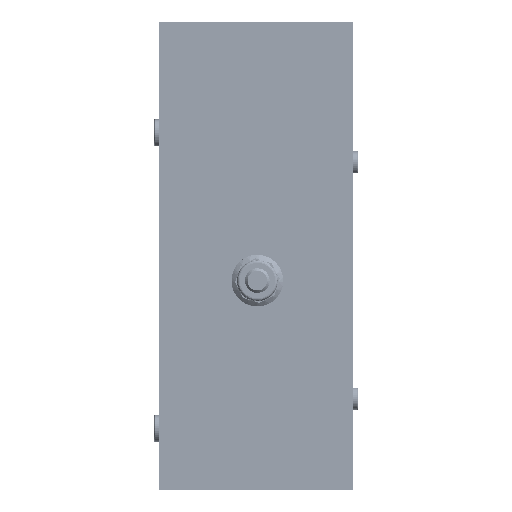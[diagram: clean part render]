
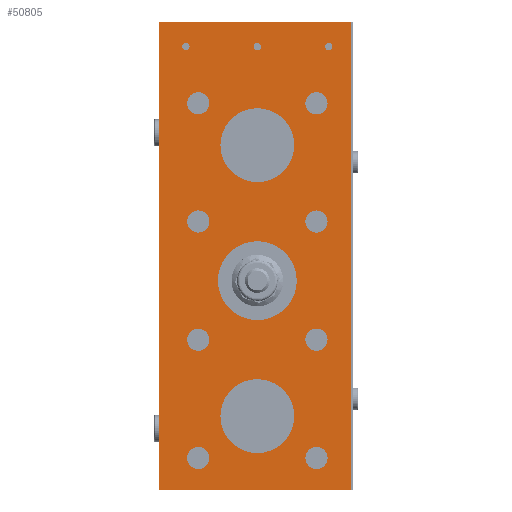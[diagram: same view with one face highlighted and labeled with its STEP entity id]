
A CAD part, left-side view. The second image highlights one B-rep face of the part: STEP entity #50805.
In plain terms, the highlighted planar face has unit normal (-1, 0, 0).
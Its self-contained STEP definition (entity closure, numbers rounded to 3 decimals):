
#48917=CARTESIAN_POINT('',(-144.0,28.5,-82.));
#48918=VERTEX_POINT('',#48917);
#48919=CARTESIAN_POINT('',(-144.0,24.,-82.));
#48920=DIRECTION('',(1.0,0.0,0.0));
#48921=DIRECTION('',(0.0,1.0,0.0));
#48922=AXIS2_PLACEMENT_3D('',#48919,#48920,#48921);
#48923=CIRCLE('',#48922,4.5);
#48924=EDGE_CURVE('',#48918,#48918,#48923,.T.);
#48986=CARTESIAN_POINT('',(-144.0,-19.5,-34.));
#48987=VERTEX_POINT('',#48986);
#48988=CARTESIAN_POINT('',(-144.0,-24.,-34.));
#48989=DIRECTION('',(1.0,0.0,0.0));
#48990=DIRECTION('',(0.0,1.0,0.0));
#48991=AXIS2_PLACEMENT_3D('',#48988,#48989,#48990);
#48992=CIRCLE('',#48991,4.5);
#48993=EDGE_CURVE('',#48987,#48987,#48992,.T.);
#49055=CARTESIAN_POINT('',(-144.0,28.5,14.));
#49056=VERTEX_POINT('',#49055);
#49057=CARTESIAN_POINT('',(-144.0,24.,14.));
#49058=DIRECTION('',(1.0,0.0,0.0));
#49059=DIRECTION('',(0.0,1.0,0.0));
#49060=AXIS2_PLACEMENT_3D('',#49057,#49058,#49059);
#49061=CIRCLE('',#49060,4.5);
#49062=EDGE_CURVE('',#49056,#49056,#49061,.T.);
#49124=CARTESIAN_POINT('',(-144.0,-19.5,62.));
#49125=VERTEX_POINT('',#49124);
#49126=CARTESIAN_POINT('',(-144.0,-24.,62.));
#49127=DIRECTION('',(1.0,0.0,0.0));
#49128=DIRECTION('',(0.0,1.0,0.0));
#49129=AXIS2_PLACEMENT_3D('',#49126,#49127,#49128);
#49130=CIRCLE('',#49129,4.5);
#49131=EDGE_CURVE('',#49125,#49125,#49130,.T.);
#49193=CARTESIAN_POINT('',(-144.0,28.5,62.));
#49194=VERTEX_POINT('',#49193);
#49195=CARTESIAN_POINT('',(-144.0,24.,62.));
#49196=DIRECTION('',(1.0,0.0,0.0));
#49197=DIRECTION('',(0.0,1.0,0.0));
#49198=AXIS2_PLACEMENT_3D('',#49195,#49196,#49197);
#49199=CIRCLE('',#49198,4.5);
#49200=EDGE_CURVE('',#49194,#49194,#49199,.T.);
#49262=CARTESIAN_POINT('',(-144.0,-19.5,14.));
#49263=VERTEX_POINT('',#49262);
#49264=CARTESIAN_POINT('',(-144.0,-24.,14.));
#49265=DIRECTION('',(1.0,0.0,0.0));
#49266=DIRECTION('',(0.0,1.0,0.0));
#49267=AXIS2_PLACEMENT_3D('',#49264,#49265,#49266);
#49268=CIRCLE('',#49267,4.5);
#49269=EDGE_CURVE('',#49263,#49263,#49268,.T.);
#49331=CARTESIAN_POINT('',(-144.0,-19.5,-82.));
#49332=VERTEX_POINT('',#49331);
#49333=CARTESIAN_POINT('',(-144.0,-24.,-82.));
#49334=DIRECTION('',(1.0,0.0,0.0));
#49335=DIRECTION('',(0.0,1.0,0.0));
#49336=AXIS2_PLACEMENT_3D('',#49333,#49334,#49335);
#49337=CIRCLE('',#49336,4.5);
#49338=EDGE_CURVE('',#49332,#49332,#49337,.T.);
#49400=CARTESIAN_POINT('',(-144.0,28.5,-34.));
#49401=VERTEX_POINT('',#49400);
#49402=CARTESIAN_POINT('',(-144.0,24.,-34.));
#49403=DIRECTION('',(1.0,0.0,0.0));
#49404=DIRECTION('',(0.0,1.0,0.0));
#49405=AXIS2_PLACEMENT_3D('',#49402,#49403,#49404);
#49406=CIRCLE('',#49405,4.5);
#49407=EDGE_CURVE('',#49401,#49401,#49406,.T.);
#49469=CARTESIAN_POINT('',(-144.0,15.,45.));
#49470=VERTEX_POINT('',#49469);
#49471=CARTESIAN_POINT('',(-144.0,0.,45.));
#49472=DIRECTION('',(1.0,0.0,0.0));
#49473=DIRECTION('',(0.0,1.0,0.0));
#49474=AXIS2_PLACEMENT_3D('',#49471,#49472,#49473);
#49475=CIRCLE('',#49474,15.0);
#49476=EDGE_CURVE('',#49470,#49470,#49475,.T.);
#49510=CARTESIAN_POINT('',(-144.0,15.,-65.));
#49511=VERTEX_POINT('',#49510);
#49512=CARTESIAN_POINT('',(-144.0,0.,-65.));
#49513=DIRECTION('',(1.0,0.0,0.0));
#49514=DIRECTION('',(0.0,1.0,0.0));
#49515=AXIS2_PLACEMENT_3D('',#49512,#49513,#49514);
#49516=CIRCLE('',#49515,15.0);
#49517=EDGE_CURVE('',#49511,#49511,#49516,.T.);
#49551=CARTESIAN_POINT('',(-144.0,16.,-10.));
#49552=VERTEX_POINT('',#49551);
#49553=CARTESIAN_POINT('',(-144.0,0.,-10.));
#49554=DIRECTION('',(1.0,0.0,0.0));
#49555=DIRECTION('',(0.0,1.0,0.0));
#49556=AXIS2_PLACEMENT_3D('',#49553,#49554,#49555);
#49557=CIRCLE('',#49556,16.0);
#49558=EDGE_CURVE('',#49552,#49552,#49557,.T.);
#49592=CARTESIAN_POINT('',(-144.0,1.5,85.));
#49593=VERTEX_POINT('',#49592);
#49594=CARTESIAN_POINT('',(-144.0,0.,85.));
#49595=DIRECTION('',(1.0,0.0,0.0));
#49596=DIRECTION('',(0.0,-1.0,0.0));
#49597=AXIS2_PLACEMENT_3D('',#49594,#49595,#49596);
#49598=CIRCLE('',#49597,1.5);
#49599=EDGE_CURVE('',#49593,#49593,#49598,.T.);
#49633=CARTESIAN_POINT('',(-144.0,30.5,85.));
#49634=VERTEX_POINT('',#49633);
#49635=CARTESIAN_POINT('',(-144.0,29.,85.));
#49636=DIRECTION('',(1.0,0.0,0.0));
#49637=DIRECTION('',(0.0,-1.0,0.0));
#49638=AXIS2_PLACEMENT_3D('',#49635,#49636,#49637);
#49639=CIRCLE('',#49638,1.5);
#49640=EDGE_CURVE('',#49634,#49634,#49639,.T.);
#49674=CARTESIAN_POINT('',(-144.0,-27.5,85.));
#49675=VERTEX_POINT('',#49674);
#49676=CARTESIAN_POINT('',(-144.0,-29.,85.));
#49677=DIRECTION('',(1.0,0.0,0.0));
#49678=DIRECTION('',(0.0,-1.0,0.0));
#49679=AXIS2_PLACEMENT_3D('',#49676,#49677,#49678);
#49680=CIRCLE('',#49679,1.5);
#49681=EDGE_CURVE('',#49675,#49675,#49680,.T.);
#50554=CARTESIAN_POINT('',(-144.,40.,95.));
#50555=VERTEX_POINT('',#50554);
#50556=CARTESIAN_POINT('',(-144.0,-38.,95.));
#50557=VERTEX_POINT('',#50556);
#50558=CARTESIAN_POINT('',(-144.,40.,95.));
#50559=DIRECTION('',(0.0,-1.0,0.0));
#50560=VECTOR('',#50559,78.);
#50561=LINE('',#50558,#50560);
#50562=EDGE_CURVE('',#50555,#50557,#50561,.T.);
#50594=CARTESIAN_POINT('',(-144.0,-38.,-95.));
#50595=VERTEX_POINT('',#50594);
#50596=CARTESIAN_POINT('',(-144.0,-38.,95.));
#50597=DIRECTION('',(0.0,0.0,-1.0));
#50598=VECTOR('',#50597,190.0);
#50599=LINE('',#50596,#50598);
#50600=EDGE_CURVE('',#50557,#50595,#50599,.T.);
#50625=CARTESIAN_POINT('',(-144.0,40.,-95.));
#50626=VERTEX_POINT('',#50625);
#50627=CARTESIAN_POINT('',(-144.0,-38.,-95.));
#50628=DIRECTION('',(0.0,1.0,0.0));
#50629=VECTOR('',#50628,78.);
#50630=LINE('',#50627,#50629);
#50631=EDGE_CURVE('',#50595,#50626,#50630,.T.);
#50656=CARTESIAN_POINT('',(-144.0,40.,-95.));
#50657=DIRECTION('',(0.0,0.0,1.0));
#50658=VECTOR('',#50657,190.);
#50659=LINE('',#50656,#50658);
#50660=EDGE_CURVE('',#50626,#50555,#50659,.T.);
#50752=CARTESIAN_POINT('',(-144.0,1.,0.));
#50753=DIRECTION('',(-1.0,0.0,0.0));
#50754=DIRECTION('',(0.0,1.0,0.0));
#50755=AXIS2_PLACEMENT_3D('',#50752,#50753,#50754);
#50756=PLANE('',#50755);
#50757=ORIENTED_EDGE('',*,*,#50562,.F.);
#50758=ORIENTED_EDGE('',*,*,#50660,.F.);
#50759=ORIENTED_EDGE('',*,*,#50631,.F.);
#50760=ORIENTED_EDGE('',*,*,#50600,.F.);
#50761=EDGE_LOOP('',(#50757,#50758,#50759,#50760));
#50762=FACE_OUTER_BOUND('',#50761,.T.);
#50763=ORIENTED_EDGE('',*,*,#48924,.T.);
#50764=EDGE_LOOP('',(#50763));
#50765=FACE_BOUND('',#50764,.T.);
#50766=ORIENTED_EDGE('',*,*,#48993,.T.);
#50767=EDGE_LOOP('',(#50766));
#50768=FACE_BOUND('',#50767,.T.);
#50769=ORIENTED_EDGE('',*,*,#49062,.T.);
#50770=EDGE_LOOP('',(#50769));
#50771=FACE_BOUND('',#50770,.T.);
#50772=ORIENTED_EDGE('',*,*,#49131,.T.);
#50773=EDGE_LOOP('',(#50772));
#50774=FACE_BOUND('',#50773,.T.);
#50775=ORIENTED_EDGE('',*,*,#49200,.T.);
#50776=EDGE_LOOP('',(#50775));
#50777=FACE_BOUND('',#50776,.T.);
#50778=ORIENTED_EDGE('',*,*,#49269,.T.);
#50779=EDGE_LOOP('',(#50778));
#50780=FACE_BOUND('',#50779,.T.);
#50781=ORIENTED_EDGE('',*,*,#49338,.T.);
#50782=EDGE_LOOP('',(#50781));
#50783=FACE_BOUND('',#50782,.T.);
#50784=ORIENTED_EDGE('',*,*,#49407,.T.);
#50785=EDGE_LOOP('',(#50784));
#50786=FACE_BOUND('',#50785,.T.);
#50787=ORIENTED_EDGE('',*,*,#49476,.T.);
#50788=EDGE_LOOP('',(#50787));
#50789=FACE_BOUND('',#50788,.T.);
#50790=ORIENTED_EDGE('',*,*,#49517,.T.);
#50791=EDGE_LOOP('',(#50790));
#50792=FACE_BOUND('',#50791,.T.);
#50793=ORIENTED_EDGE('',*,*,#49558,.T.);
#50794=EDGE_LOOP('',(#50793));
#50795=FACE_BOUND('',#50794,.T.);
#50796=ORIENTED_EDGE('',*,*,#49599,.T.);
#50797=EDGE_LOOP('',(#50796));
#50798=FACE_BOUND('',#50797,.T.);
#50799=ORIENTED_EDGE('',*,*,#49640,.T.);
#50800=EDGE_LOOP('',(#50799));
#50801=FACE_BOUND('',#50800,.T.);
#50802=ORIENTED_EDGE('',*,*,#49681,.T.);
#50803=EDGE_LOOP('',(#50802));
#50804=FACE_BOUND('',#50803,.T.);
#50805=ADVANCED_FACE('',(#50762,#50765,#50768,#50771,#50774,#50777,#50780,#50783,#50786,#50789,#50792,#50795,#50798,#50801,#50804),#50756,.T.);
